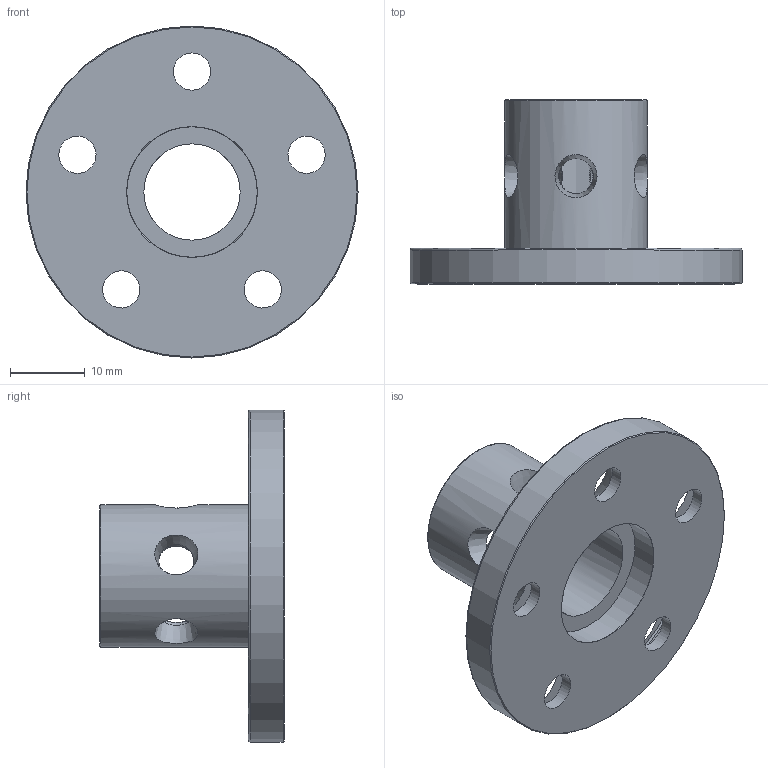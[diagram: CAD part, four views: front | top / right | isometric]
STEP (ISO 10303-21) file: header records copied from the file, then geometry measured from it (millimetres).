
FILE_DESCRIPTION(/* description */ (''),/* implementation_level */ '2;1');
FILE_NAME(/* name */ 'Retainer.step',/* time_stamp */ '2026-05-22T17:08:17-04:00',/* author */ (''),/* organization */ (''),/* preprocessor_version */ 'ST-DEVELOPER v20.1',/* originating_system */ 'Autodesk Translation Framework v15.8.0.0',/* authorisation */ '');
FILE_SCHEMA (('AUTOMOTIVE_DESIGN { 1 0 10303 214 3 1 1 }'));
Length unit declared in the file: inch
Products named in the file (1): Retainer
Bounding box: 44.45 x 24.64 x 44.45 mm (x, y, z)
Volume: 8195 mm3; surface area: 5844.8 mm2
Topology: 1 solids, 1 shells, 33 faces, 84 edges, 55 vertices
Faces by surface type: cone 12, cylinder 9, sphere 5, plane 4, torus 3
Full cylindrical faces by diameter (mm): 4.978 x5, 12.878 x1, 17.475 x1, 19.05 x1, 44.45 x1
Entity records: 1451 total; most frequent: CARTESIAN_POINT 553, DIRECTION 185, ORIENTED_EDGE 168, EDGE_CURVE 84, AXIS2_PLACEMENT_3D 82, EDGE_LOOP 57, VERTEX_POINT 55, CIRCLE 48
